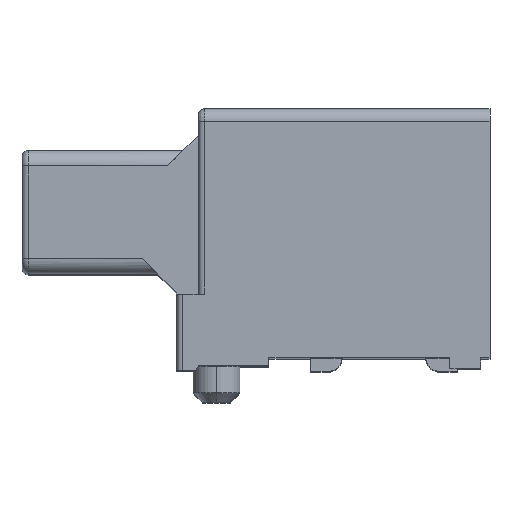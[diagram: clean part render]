
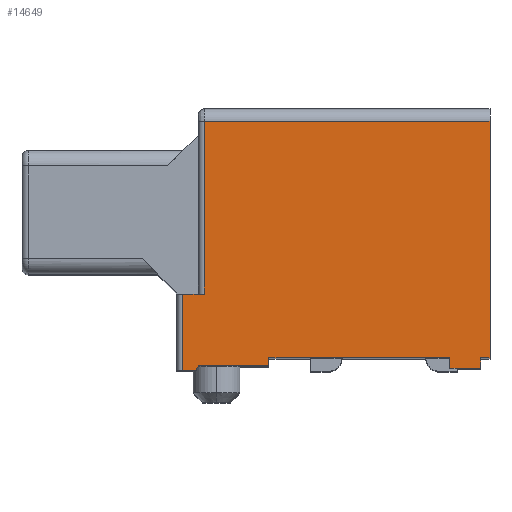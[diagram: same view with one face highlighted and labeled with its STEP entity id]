
A CAD part, top view. The second image highlights one B-rep face of the part: STEP entity #14649.
In plain terms, the highlighted planar face has unit normal (0, 0, 1).
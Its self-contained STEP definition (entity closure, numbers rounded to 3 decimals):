
#109=DIRECTION('',(0.,1.,0.));
#110=VECTOR('',#109,7.67);
#111=CARTESIAN_POINT('',(10.26,0.,10.79));
#112=LINE('',#111,#110);
#470=DIRECTION('',(-1.,0.,0.));
#471=VECTOR('',#470,9.25);
#472=CARTESIAN_POINT('',(10.26,7.67,10.79));
#473=LINE('',#472,#471);
#493=DIRECTION('',(0.,-1.,0.));
#494=VECTOR('',#493,5.6);
#495=CARTESIAN_POINT('',(1.01,7.67,10.79));
#496=LINE('',#495,#494);
#545=DIRECTION('',(0.,-1.,0.));
#546=VECTOR('',#545,2.47);
#547=CARTESIAN_POINT('',(0.3,2.07,10.79));
#548=LINE('',#547,#546);
#553=DIRECTION('',(-0.707,-0.707,0.));
#554=VECTOR('',#553,0.099);
#555=CARTESIAN_POINT('',(0.82,-0.26,10.79));
#556=LINE('',#555,#554);
#557=DIRECTION('',(1.,0.,0.));
#558=VECTOR('',#557,0.71);
#559=CARTESIAN_POINT('',(0.3,2.07,10.79));
#560=LINE('',#559,#558);
#569=DIRECTION('',(0.,1.,0.));
#570=VECTOR('',#569,0.07);
#571=CARTESIAN_POINT('',(0.75,-0.4,10.79));
#572=LINE('',#571,#570);
#598=DIRECTION('',(1.,0.,0.));
#599=VECTOR('',#598,0.45);
#600=CARTESIAN_POINT('',(0.3,-0.4,10.79));
#601=LINE('',#600,#599);
#626=DIRECTION('',(1.,0.,0.));
#627=VECTOR('',#626,2.28);
#628=CARTESIAN_POINT('',(0.82,-0.26,10.79));
#629=LINE('',#628,#627);
#1059=DIRECTION('',(1.,0.,0.));
#1060=VECTOR('',#1059,5.86);
#1061=CARTESIAN_POINT('',(3.1,0.,10.79));
#1062=LINE('',#1061,#1060);
#1067=DIRECTION('',(1.,0.,0.));
#1068=VECTOR('',#1067,0.3);
#1069=CARTESIAN_POINT('',(9.96,0.,10.79));
#1070=LINE('',#1069,#1068);
#1379=DIRECTION('',(0.,1.,0.));
#1380=VECTOR('',#1379,0.26);
#1381=CARTESIAN_POINT('',(3.1,-0.26,10.79));
#1382=LINE('',#1381,#1380);
#1387=DIRECTION('',(0.,-1.,0.));
#1388=VECTOR('',#1387,0.33);
#1389=CARTESIAN_POINT('',(8.96,0.,10.79));
#1390=LINE('',#1389,#1388);
#1403=DIRECTION('',(1.,0.,0.));
#1404=VECTOR('',#1403,1.);
#1405=CARTESIAN_POINT('',(8.96,-0.33,10.79));
#1406=LINE('',#1405,#1404);
#1415=DIRECTION('',(0.,1.,0.));
#1416=VECTOR('',#1415,0.33);
#1417=CARTESIAN_POINT('',(9.96,-0.33,10.79));
#1418=LINE('',#1417,#1416);
#10733=CARTESIAN_POINT('',(0.3,2.07,10.79));
#10734=CARTESIAN_POINT('',(0.3,-0.4,10.79));
#10735=VERTEX_POINT('',#10733);
#10736=VERTEX_POINT('',#10734);
#10737=CARTESIAN_POINT('',(0.82,-0.26,10.79));
#10738=CARTESIAN_POINT('',(0.75,-0.33,10.79));
#10739=VERTEX_POINT('',#10737);
#10740=VERTEX_POINT('',#10738);
#10741=CARTESIAN_POINT('',(0.75,-0.4,10.79));
#10742=VERTEX_POINT('',#10741);
#10743=CARTESIAN_POINT('',(1.01,2.07,10.79));
#10744=VERTEX_POINT('',#10743);
#10745=CARTESIAN_POINT('',(1.01,7.67,10.79));
#10746=VERTEX_POINT('',#10745);
#10747=CARTESIAN_POINT('',(10.26,7.67,10.79));
#10748=VERTEX_POINT('',#10747);
#10749=CARTESIAN_POINT('',(10.26,0.,10.79));
#10750=VERTEX_POINT('',#10749);
#10751=CARTESIAN_POINT('',(9.96,0.,10.79));
#10752=VERTEX_POINT('',#10751);
#10753=CARTESIAN_POINT('',(9.96,-0.33,10.79));
#10754=VERTEX_POINT('',#10753);
#10755=CARTESIAN_POINT('',(8.96,-0.33,10.79));
#10756=VERTEX_POINT('',#10755);
#10757=CARTESIAN_POINT('',(8.96,0.,10.79));
#10758=VERTEX_POINT('',#10757);
#10759=CARTESIAN_POINT('',(3.1,0.,10.79));
#10760=VERTEX_POINT('',#10759);
#10761=CARTESIAN_POINT('',(3.1,-0.26,10.79));
#10762=VERTEX_POINT('',#10761);
#14617=CARTESIAN_POINT('',(5.28,3.635,10.79));
#14618=DIRECTION('',(0.,0.,1.));
#14619=DIRECTION('',(1.,0.,0.));
#14620=AXIS2_PLACEMENT_3D('',#14617,#14618,#14619);
#14621=PLANE('',#14620);
#14623=ORIENTED_EDGE('',*,*,#14622,.T.);
#14625=ORIENTED_EDGE('',*,*,#14624,.F.);
#14627=ORIENTED_EDGE('',*,*,#14626,.F.);
#14628=ORIENTED_EDGE('',*,*,#14608,.F.);
#14629=ORIENTED_EDGE('',*,*,#14598,.T.);
#14630=ORIENTED_EDGE('',*,*,#14535,.F.);
#14631=ORIENTED_EDGE('',*,*,#14495,.F.);
#14632=ORIENTED_EDGE('',*,*,#14285,.F.);
#14634=ORIENTED_EDGE('',*,*,#14633,.F.);
#14636=ORIENTED_EDGE('',*,*,#14635,.F.);
#14638=ORIENTED_EDGE('',*,*,#14637,.F.);
#14640=ORIENTED_EDGE('',*,*,#14639,.F.);
#14642=ORIENTED_EDGE('',*,*,#14641,.F.);
#14644=ORIENTED_EDGE('',*,*,#14643,.F.);
#14646=ORIENTED_EDGE('',*,*,#14645,.F.);
#14647=EDGE_LOOP('',(#14623,#14625,#14627,#14628,#14629,#14630,#14631,#14632,
#14634,#14636,#14638,#14640,#14642,#14644,#14646));
#14648=FACE_OUTER_BOUND('',#14647,.F.);
#14649=ADVANCED_FACE('',(#14648),#14621,.T.);
#14285=EDGE_CURVE('',#10750,#10748,#112,.T.);
#14495=EDGE_CURVE('',#10748,#10746,#473,.T.);
#14535=EDGE_CURVE('',#10746,#10744,#496,.T.);
#14598=EDGE_CURVE('',#10735,#10744,#560,.T.);
#14608=EDGE_CURVE('',#10735,#10736,#548,.T.);
#14622=EDGE_CURVE('',#10739,#10740,#556,.T.);
#14624=EDGE_CURVE('',#10742,#10740,#572,.T.);
#14626=EDGE_CURVE('',#10736,#10742,#601,.T.);
#14633=EDGE_CURVE('',#10752,#10750,#1070,.T.);
#14635=EDGE_CURVE('',#10754,#10752,#1418,.T.);
#14637=EDGE_CURVE('',#10756,#10754,#1406,.T.);
#14639=EDGE_CURVE('',#10758,#10756,#1390,.T.);
#14641=EDGE_CURVE('',#10760,#10758,#1062,.T.);
#14643=EDGE_CURVE('',#10762,#10760,#1382,.T.);
#14645=EDGE_CURVE('',#10739,#10762,#629,.T.);
